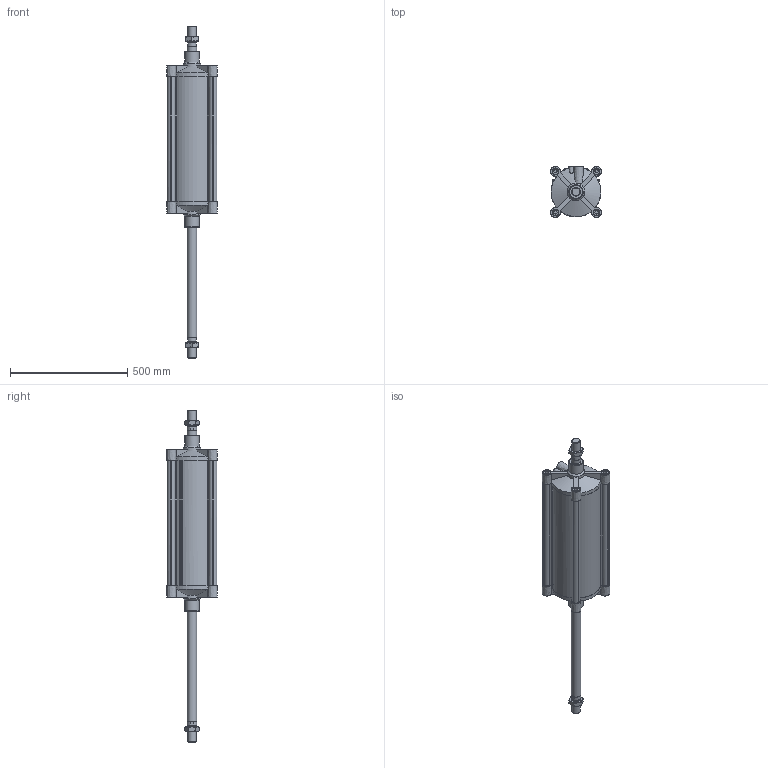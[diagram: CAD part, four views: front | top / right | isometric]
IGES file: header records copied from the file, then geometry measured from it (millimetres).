
Global section: file name: 139#_200_0450_02; native system: Autodesk Inventor 2014; preprocessor: unknown; author: F. Piloni; organization: Pneumax S.p.A.; date: 20151120.143249; units: millimetre
Bounding box: 216 x 216 x 1414 mm (x, y, z)
Volume: 10034267.4 mm3; surface area: 1678167.4 mm2
Topology: 6 solids, 6 shells, 324 faces, 844 edges, 567 vertices
Faces by surface type: bspline 324
